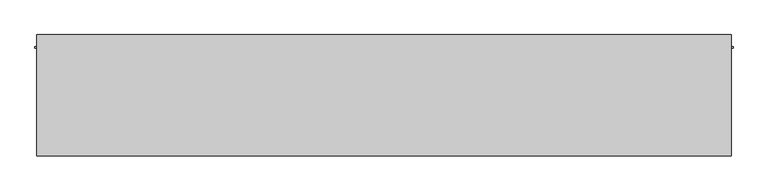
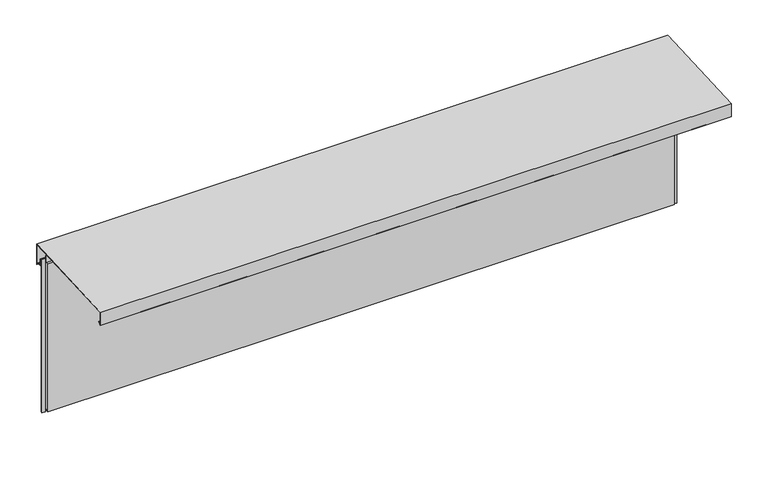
"""IFC4 building model written with IfcOpenShell, lengths in millimetres: plate geometry, Trimo_Qbiss Screen_Normal Panel-HORIZONTAL : HR - B."""

import ifcopenshell
import ifcopenshell.guid

model = None  # the IFC model being written
_history = None  # IfcOwnerHistory: only IFC2X3 demands one
_inside = {}  # id of a spatial element -> (the spatial element, [elements in it])
_under = {}  # id of a project, library or spatial element -> (it, [spatial elements below it])
_declared = {}  # id of a project -> (the project, [libraries it declares])
_typed = {}  # id of a type object -> (the type object, [elements of that type])
_made_of = {}  # id of a material, layer set ... -> (it, [elements and type objects made of it])


def new_model(schema):
    """Start an empty IFC model of exactly this schema.

    Asked for "IFC4X3", IfcOpenShell would pick the latest addendum, in which some entities
    have other attributes; the version numbers below select the first issue.
    IFC2X3 requires an IfcOwnerHistory on every rooted entity: one is made here for all.
    """
    global model, _history
    if schema == "IFC4X3":
        model = ifcopenshell.file(schema_version=(4, 3, 0, 0))
    else:
        model = ifcopenshell.file(schema=schema)
    _inside.clear()
    _under.clear()
    _declared.clear()
    _typed.clear()
    _made_of.clear()
    _history = None
    if model.schema == "IFC2X3":
        org = make("IfcOrganization", Name="unknown")
        user = make(
            "IfcPersonAndOrganization",
            ThePerson=make("IfcPerson", FamilyName="unknown"),
            TheOrganization=org,
        )
        app = make(
            "IfcApplication",
            ApplicationDeveloper=org,
            Version="unknown",
            ApplicationFullName="unknown",
            ApplicationIdentifier="unknown",
        )
        _history = make(
            "IfcOwnerHistory",
            OwningUser=user,
            OwningApplication=app,
            ChangeAction="ADDED",
            CreationDate=0,
        )
    return model


def make(cls, **values):
    """One entity of the class cls with the attributes given. An attribute that is None is left unset."""
    return model.create_entity(
        cls, **{name: value for name, value in values.items() if value is not None}
    )


def rooted(cls, **values):
    """An entity with a GlobalId (a new one), such as an element, a storey or a relation."""
    return make(cls, GlobalId=ifcopenshell.guid.new(), OwnerHistory=_history, **values)


def si_unit(unit_type, name, prefix=None):
    """IfcSIUnit, for example si_unit("LENGTHUNIT", "METRE", prefix="MILLI")."""
    return make("IfcSIUnit", UnitType=unit_type, Prefix=prefix, Name=name)


def assignment(units):
    """IfcUnitAssignment: the units of a project."""
    return None if units is None else make("IfcUnitAssignment", Units=units)


def point(xyz):
    """IfcCartesianPoint."""
    return None if xyz is None else make("IfcCartesianPoint", Coordinates=xyz)


def direction(xyz):
    """IfcDirection."""
    return None if xyz is None else make("IfcDirection", DirectionRatios=xyz)


def frame(location, z_axis=None, x_axis=None):
    """IfcAxis2Placement3D, a coordinate frame: its origin and axes. An axis left out is left unset."""
    return make(
        "IfcAxis2Placement3D",
        Location=point(location),
        Axis=direction(z_axis),
        RefDirection=direction(x_axis),
    )


def origin():
    """The frame at (0, 0, 0) with its axes left unset."""
    return frame((0.0, 0.0, 0.0))


def place(relative_to, where):
    """IfcLocalPlacement: puts the frame where relative to a parent placement (None: the world)."""
    return make(
        "IfcLocalPlacement", PlacementRelTo=relative_to, RelativePlacement=where
    )


def context(
    kind, dimensions, precision=None, world=None, true_north=None, identifier=None
):
    """IfcGeometricRepresentationContext, for example the 3D "Model" context."""
    return make(
        "IfcGeometricRepresentationContext",
        ContextIdentifier=identifier,
        ContextType=kind,
        CoordinateSpaceDimension=dimensions,
        Precision=precision,
        WorldCoordinateSystem=world,
        TrueNorth=true_north,
    )


def project(units=None, contexts=None):
    """IfcProject with its units and contexts."""
    return rooted(
        "IfcProject",
        Name="project",
        RepresentationContexts=contexts,
        UnitsInContext=assignment(units),
    )


def spatial(cls, under=None, at=None, **own):
    """A site, building, storey or space (cls), placed at a placement, below another one or the project."""
    s = rooted(cls, ObjectPlacement=at, **own)
    if under is not None:
        _under.setdefault(under.id(), (under, []))[1].append(s)
    return s


def polyline(points):
    """IfcPolyline through the points."""
    return make("IfcPolyline", Points=[point(p) for p in points])


def outline(outer, holes=None, kind="AREA"):
    """IfcArbitraryClosedProfileDef: a profile drawn as a closed curve; with holes, ...WithVoids."""
    if holes is None:
        return make("IfcArbitraryClosedProfileDef", ProfileType=kind, OuterCurve=outer)
    return make(
        "IfcArbitraryProfileDefWithVoids",
        ProfileType=kind,
        OuterCurve=outer,
        InnerCurves=holes,
    )


def extrude(swept, where, along, depth):
    """IfcExtrudedAreaSolid: the profile swept, set in the frame where, extruded along a direction by depth."""
    return make(
        "IfcExtrudedAreaSolid",
        SweptArea=swept,
        Position=where,
        ExtrudedDirection=direction(along),
        Depth=depth,
    )


def shape(context_of_items, identifier, shape_type, items):
    """IfcShapeRepresentation: the items that make up one representation, for example the "Body"."""
    return make(
        "IfcShapeRepresentation",
        ContextOfItems=context_of_items,
        RepresentationIdentifier=identifier,
        RepresentationType=shape_type,
        Items=items,
    )


def source(mapping_origin, context_of_items, identifier, shape_type, items):
    """IfcRepresentationMap: a shape defined once, which mapped items show again and again."""
    return make(
        "IfcRepresentationMap",
        MappingOrigin=mapping_origin,
        MappedRepresentation=shape(context_of_items, identifier, shape_type, items),
    )


def transform(
    local_origin,
    x_axis=None,
    y_axis=None,
    z_axis=None,
    scale=None,
    scale2=None,
    scale3=None,
    uniform=True,
):
    """IfcCartesianTransformationOperator3D, or its non-uniform kind. x_axis, y_axis, z_axis: its Axis1, 2, 3."""
    if uniform:
        return make(
            "IfcCartesianTransformationOperator3D",
            Axis1=direction(x_axis),
            Axis2=direction(y_axis),
            LocalOrigin=point(local_origin),
            Scale=scale,
            Axis3=direction(z_axis),
        )
    return make(
        "IfcCartesianTransformationOperator3DnonUniform",
        Axis1=direction(x_axis),
        Axis2=direction(y_axis),
        LocalOrigin=point(local_origin),
        Scale=scale,
        Axis3=direction(z_axis),
        Scale2=scale2,
        Scale3=scale3,
    )


def mapped(mapping_source, mapping_target):
    """IfcMappedItem: shows the shape of a source again, moved by a transform."""
    return make(
        "IfcMappedItem", MappingSource=mapping_source, MappingTarget=mapping_target
    )


def made_of(thing, what):
    """Note that an element or type object is made of a material, layer set ...; save() writes the relation."""
    if what is not None:
        _made_of.setdefault(what.id(), (what, []))[1].append(thing)
    return thing


def element(
    cls,
    number,
    at=None,
    inside=None,
    cuts=None,
    type_object=None,
    material=None,
    context=None,
    identifier="Body",
    shape_type=None,
    held_by="IfcProductDefinitionShape",
    body=None,
    shapes=None,
    **own,
):
    """One element of the class cls, such as IfcWall. Its Tag is "e" and its number.

    at: its placement. inside: the storey or other place that contains it. cuts: it is an
    opening in that element (IfcRelVoidsElement). A single representation is given by context,
    identifier, shape_type and body (its items); several are given by shapes. held_by: the class
    of the entity that holds the representations. save() writes the other relations.
    """
    e = rooted(cls, Tag="e%d" % number, ObjectPlacement=at, **own)
    if body is not None:
        shapes = [shape(context, identifier, shape_type, body)]
    if shapes is not None:
        e.Representation = make(held_by, Representations=shapes)
    if inside is not None:
        _inside.setdefault(inside.id(), (inside, []))[1].append(e)
    if cuts is not None:
        rooted(
            "IfcRelVoidsElement", RelatingBuildingElement=cuts, RelatedOpeningElement=e
        )
    if type_object is not None:
        _typed.setdefault(type_object.id(), (type_object, []))[1].append(e)
    return made_of(e, material)


def aggregate(whole, parts):
    """IfcRelAggregates: a whole, such as a stair, and the parts it consists of."""
    return rooted("IfcRelAggregates", RelatingObject=whole, RelatedObjects=parts)


def save(model, path):
    """Write the relations noted so far, then the file.

    IfcRelAggregates (storeys below a building ...), IfcRelContainedInSpatialStructure (elements
    in a storey), IfcRelDefinesByType, IfcRelAssociatesMaterial and IfcRelDeclares: one each for
    every whole, place, type object, material and project.
    """
    for whole, parts in _under.values():
        aggregate(whole, parts)
    for where, things in _inside.values():
        rooted(
            "IfcRelContainedInSpatialStructure",
            RelatedElements=things,
            RelatingStructure=where,
        )
    for kind, things in _typed.values():
        rooted("IfcRelDefinesByType", RelatedObjects=things, RelatingType=kind)
    for what, things in _made_of.values():
        rooted("IfcRelAssociatesMaterial", RelatedObjects=things, RelatingMaterial=what)
    for by, libraries in _declared.values():
        rooted("IfcRelDeclares", RelatingContext=by, RelatedDefinitions=libraries)
    model.write(path)


def plate_f7d04e19(model_context):
    return source(origin(), model_context, "Body", "SweptSolid", [
        extrude(outline(polyline([(101.0, 868.0), (77.0, 868.0), (77.0, 868.8), (101.8, 868.8), (101.8, 831.8), (125.3313708, 831.8), (133.2, 823.9313708), (133.2, 822.8), (125.0, 831.0), (101.0, 831.0), (101.0, 868.0)])), frame((-1732.5, 0.0, 0.0), z_axis=(1.0, 0.0, 0.0), x_axis=(0.0, 1.0, 0.0)), (0.0, 0.0, 1.0), 3465.0),
        extrude(outline(polyline([(134.2, 818.9715729), (134.2, 934.1569759), (-469.2, 905.4165497), (-469.2, 833.1070922), (-457.6367532, 844.670339), (-457.0710678, 844.1046536), (-470.0, 831.1757214), (-470.0, 906.1757214), (135.0, 935.0), (135.0, 817.040202), (123.020101, 829.020101), (123.5857864, 829.5857864), (134.2, 818.9715729)])), frame((-1732.5, 0.0, 0.0), z_axis=(1.0, 0.0, 0.0), x_axis=(0.0, 1.0, 0.0)), (0.0, 0.0, 1.0), 3465.0),
        extrude(outline(polyline([(-1723.0, 76.5978162), (-1723.0, 67.8978162), (-1742.0, 67.8978162), (-1742.0, 76.5978162), (-1723.0, 76.5978162)])), frame((0.0, 0.0, -1.0), z_axis=(0.0, 0.0, 1.0), x_axis=(1.0, 0.0, 0.0)), (0.0, 0.0, 1.0), 890.0),
        extrude(outline(polyline([(1723.0, 67.8978162), (1723.0, 76.5978162), (1742.0, 76.5978162), (1742.0, 67.8978162), (1723.0, 67.8978162)])), frame((0.0, 0.0, -1.0), z_axis=(0.0, 0.0, 1.0), x_axis=(1.0, 0.0, 0.0)), (0.0, 0.0, 1.0), 890.0),
        extrude(outline(polyline([(1720.0, 76.0), (1720.0, 71.0), (-1720.0, 71.0), (-1720.0, 76.0), (1720.0, 76.0)])), frame((0.0, 0.0, 868.0), z_axis=(0.0, 0.0, 1.0), x_axis=(1.0, 0.0, 0.0)), (0.0, 0.0, 1.0), 21.0),
        extrude(outline(polyline([(71.0, 867.0), (100.0, 867.0), (100.0, 0.0), (72.0, 0.0), (72.0, 15.5), (62.0, 15.5), (62.0, 7.0), (50.0, 7.0), (50.0, 867.0), (63.0, 867.0), (63.0, 904.5), (71.0, 904.5), (71.0, 867.0)])), frame((-1720.0, 0.0, 0.0), z_axis=(1.0, 0.0, 0.0), x_axis=(0.0, 1.0, 0.0)), (0.0, 0.0, 1.0), 3440.0),
    ])


if __name__ == "__main__":
    model = new_model("IFC4")
    model_context = context("Model", 3, world=origin())
    ifc_project = project(units=[si_unit("LENGTHUNIT", "METRE", prefix="MILLI")], contexts=[model_context])
    site = spatial("IfcSite", under=ifc_project)
    building = spatial("IfcBuilding", under=site)
    placement = place(None, origin())
    plate_shape = plate_f7d04e19(model_context)
    element("IfcPlate", 1, ObjectType="Trimo_Qbiss Screen_Normal Panel-HORIZONTAL : HR - B", at=placement, inside=building, context=model_context, shape_type="MappedRepresentation", body=[
        mapped(plate_shape, transform((0.0, 0.0, 0.0), x_axis=(1.0, 0.0, 0.0), y_axis=(0.0, 1.0, 0.0), z_axis=(0.0, 0.0, 1.0))),
    ])
    save(model, "model.ifc")
